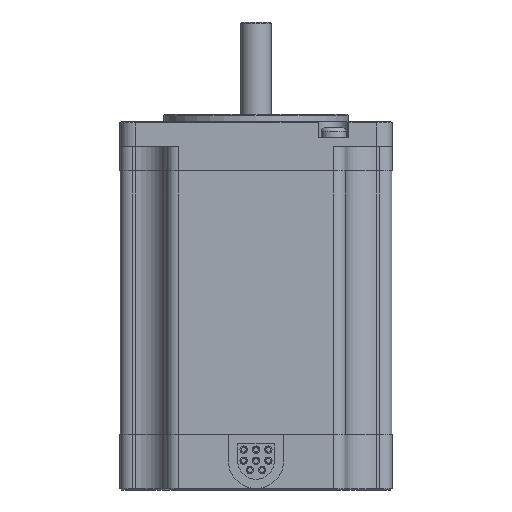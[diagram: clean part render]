
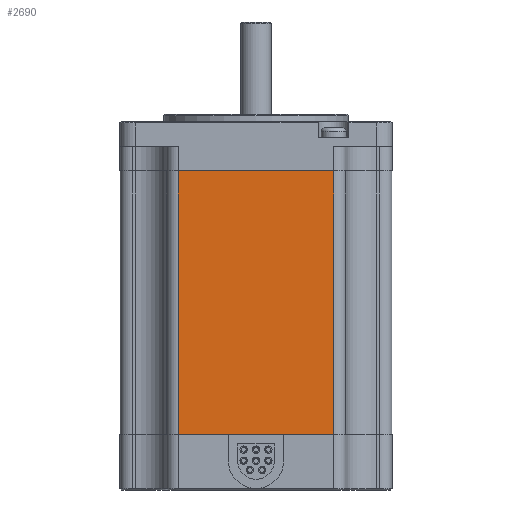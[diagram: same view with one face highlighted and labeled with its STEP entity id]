
A CAD part, front view. The second image highlights one B-rep face of the part: STEP entity #2690.
In plain terms, the highlighted planar face has unit normal (0, -1, 0).
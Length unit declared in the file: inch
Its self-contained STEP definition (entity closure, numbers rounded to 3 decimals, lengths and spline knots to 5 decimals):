
#994 = VERTEX_POINT ( 'NONE', #10327 ) ;
#1023 = VERTEX_POINT ( 'NONE', #10436 ) ;
#1026 = EDGE_CURVE ( 'NONE', #1023, #994, #10417, .T. ) ;
#2675 = ORIENTED_EDGE ( 'NONE', *, *, #1026, .T. ) ;
#2683 = ORIENTED_EDGE ( 'NONE', *, *, #2737, .F. ) ;
#2686 = EDGE_LOOP ( 'NONE', ( #2675, #2683, #2738, #2741 ) ) ;
#2690 = ADVANCED_FACE ( 'NONE', ( #4610 ), #4632, .F. ) ;
#2737 = EDGE_CURVE ( 'NONE', #2740, #994, #4823, .T. ) ;
#2738 = ORIENTED_EDGE ( 'NONE', *, *, #2739, .F. ) ;
#2739 = EDGE_CURVE ( 'NONE', #2748, #2740, #4802, .T. ) ;
#2740 = VERTEX_POINT ( 'NONE', #4601 ) ;
#2741 = ORIENTED_EDGE ( 'NONE', *, *, #2745, .T. ) ;
#2745 = EDGE_CURVE ( 'NONE', #2748, #1023, #4381, .T. ) ;
#2748 = VERTEX_POINT ( 'NONE', #4859 ) ;
#4317 = CARTESIAN_POINT ( 'NONE',  ( 0.63, -1.104, -2.542 ) ) ;
#4359 = DIRECTION ( 'NONE',  ( 0., 0., 1. ) ) ;
#4375 = VECTOR ( 'NONE', #4359, 39.37008 ) ;
#4381 = LINE ( 'NONE', #4317, #4375 ) ;
#4601 = CARTESIAN_POINT ( 'NONE',  ( -0.63, -1.104, -2.542 ) ) ;
#4610 = FACE_OUTER_BOUND ( 'NONE', #2686, .T. ) ;
#4632 = PLANE ( 'NONE',  #4638 ) ;
#4638 = AXIS2_PLACEMENT_3D ( 'NONE', #4699, #4698, #4697 ) ;
#4697 = DIRECTION ( 'NONE',  ( -1., 0., 0. ) ) ;
#4698 = DIRECTION ( 'NONE',  ( 0., 1., 0. ) ) ;
#4699 = CARTESIAN_POINT ( 'NONE',  ( 0.63, -1.104, -2.542 ) ) ;
#4802 = LINE ( 'NONE', #4811, #4810 ) ;
#4809 = DIRECTION ( 'NONE',  ( -1., 0., 0. ) ) ;
#4810 = VECTOR ( 'NONE', #4809, 39.37008 ) ;
#4811 = CARTESIAN_POINT ( 'NONE',  ( 0.63, -1.104, -2.542 ) ) ;
#4816 = DIRECTION ( 'NONE',  ( 0., 0., 1. ) ) ;
#4817 = VECTOR ( 'NONE', #4816, 39.37008 ) ;
#4818 = CARTESIAN_POINT ( 'NONE',  ( -0.63, -1.104, -2.542 ) ) ;
#4823 = LINE ( 'NONE', #4818, #4817 ) ;
#4859 = CARTESIAN_POINT ( 'NONE',  ( 0.63, -1.104, -2.542 ) ) ;
#10327 = CARTESIAN_POINT ( 'NONE',  ( -0.63, -1.104, -0.4 ) ) ;
#10417 = LINE ( 'NONE', #10433, #10443 ) ;
#10432 = DIRECTION ( 'NONE',  ( -1., 0., 0. ) ) ;
#10433 = CARTESIAN_POINT ( 'NONE',  ( 0.63, -1.104, -0.4 ) ) ;
#10436 = CARTESIAN_POINT ( 'NONE',  ( 0.63, -1.104, -0.4 ) ) ;
#10443 = VECTOR ( 'NONE', #10432, 39.37008 ) ;
